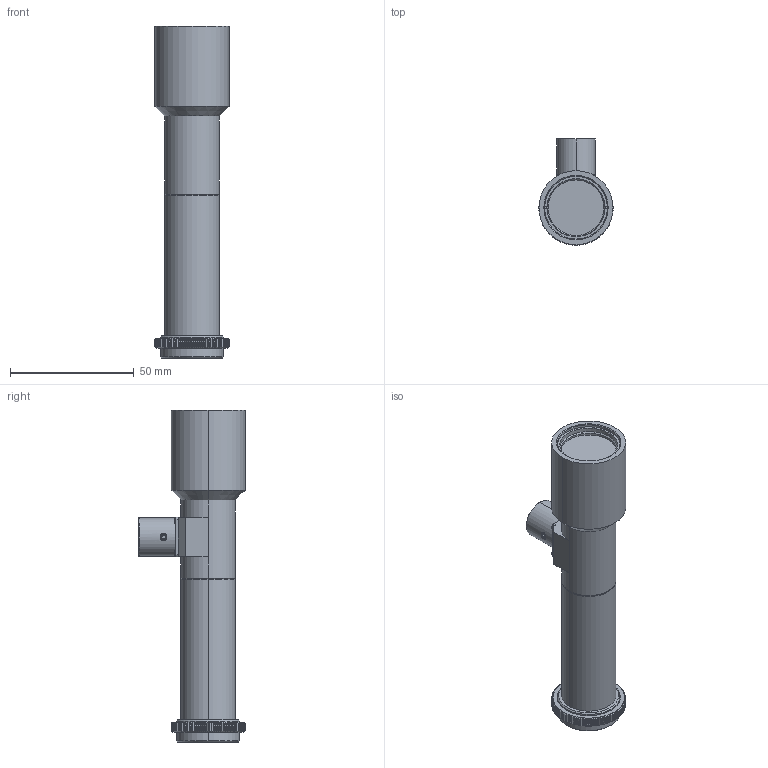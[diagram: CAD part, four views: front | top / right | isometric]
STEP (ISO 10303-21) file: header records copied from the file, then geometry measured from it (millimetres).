
FILE_DESCRIPTION (( 'STEP AP203' ), '1' );
FILE_NAME ('MML2-HR110D_A03129A0000101A-001.STEP', '2013-11-21T07:15:56', ( 'SCHOTT' ), ( 'SCHOTT' ), 'SwSTEP 2.0', 'SolidWorks 2011', '' );
FILE_SCHEMA (( 'CONFIG_CONTROL_DESIGN' ));
Length unit declared in the file: millimetre
Products named in the file (1): MML2-HR110D_A03129A0000101A-001
Bounding box: 30 x 43 x 134.4 mm (x, y, z)
Volume: 49140.3 mm3; surface area: 17978.2 mm2
Topology: 1 solids, 10 shells, 573 faces, 1493 edges, 945 vertices
Faces by surface type: plane 380, cone 97, cylinder 72, torus 16, sphere 8
Entity records: 18337 total; most frequent: CARTESIAN_POINT 5214, ORIENTED_EDGE 2970, DIRECTION 2384, EDGE_CURVE 1485, AXIS2_PLACEMENT_3D 951, VERTEX_POINT 945, B_SPLINE_CURVE_WITH_KNOTS 606, EDGE_LOOP 598
